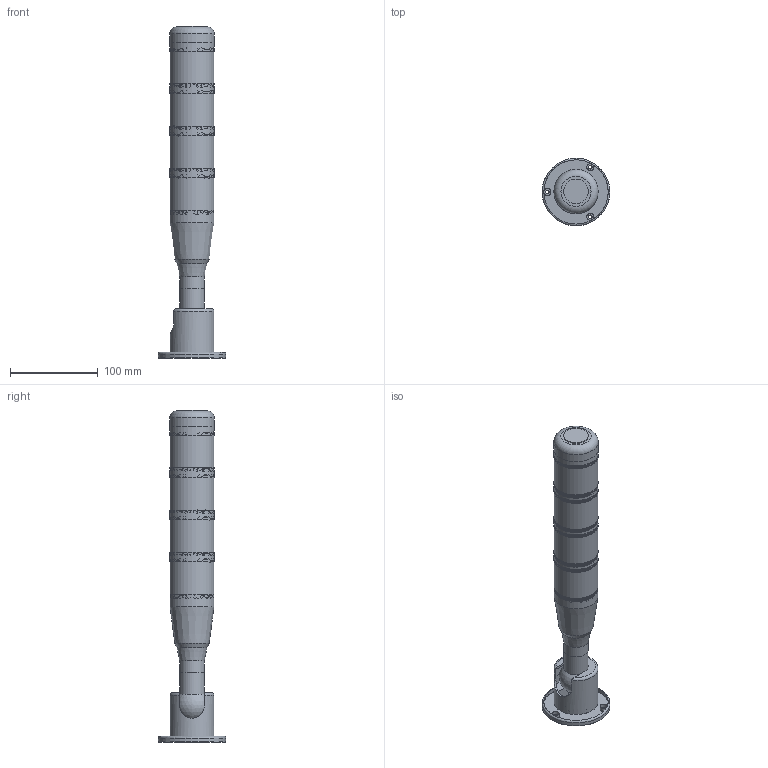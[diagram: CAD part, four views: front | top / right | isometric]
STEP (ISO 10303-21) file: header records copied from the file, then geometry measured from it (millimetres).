
FILE_DESCRIPTION(/* description */ (''),/* implementation_level */ '2;1');
FILE_NAME(/* name */ 'OLE2-401 常亮.stp',/* time_stamp */ '2022-12-13T18:02:10+08:00',/* author */ (''),/* organization */ (''),/* preprocessor_version */ 'ST-DEVELOPER v16.7',/* originating_system */ 'SIEMENS PLM Software NX 12.0',/* authorisation */ '');
FILE_SCHEMA (('AUTOMOTIVE_DESIGN { 1 0 10303 214 3 1 1 1 }'));
Products named in the file (1): Admi15EC76A1t4hc
Bounding box: 77 x 77 x 377.5 mm (x, y, z)
Volume: 190687.1 mm3; surface area: 182216.1 mm2
Topology: 15 solids, 17 shells, 2085 faces, 5034 edges, 3356 vertices
Faces by surface type: plane 1882, cylinder 115, bspline 63, cone 19, torus 4, sphere 2
Full cylindrical faces by diameter (mm): 4 x3, 8 x3, 17.5 x1, 18 x2, 21.5 x1, 22 x1, 23.5 x1, 24.3 x10, 28 x3, 32 x4, 34 x1, 38 x1, 42 x1, 43 x3, 44.2 x4, 45 x1, 46 x6, 46.3 x5, 47 x1, 48 x1, 50 x6, 50.3 x5, 77 x1
Entity records: 85108 total; most frequent: CARTESIAN_POINT 39247, ORIENTED_EDGE 9666, DIRECTION 8040, EDGE_CURVE 4833, LINE 3682, VECTOR 3682, VERTEX_POINT 3253, EDGE_LOOP 2540
